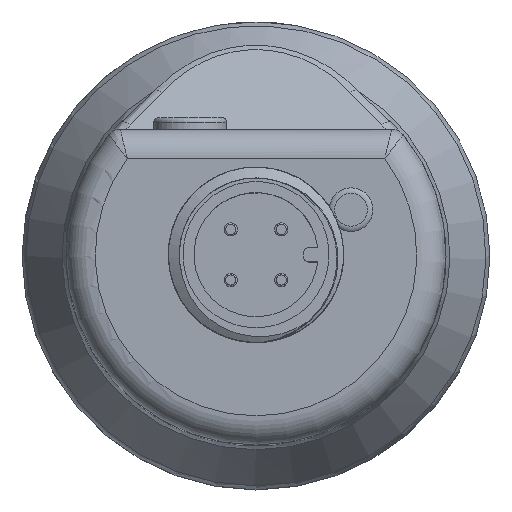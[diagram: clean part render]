
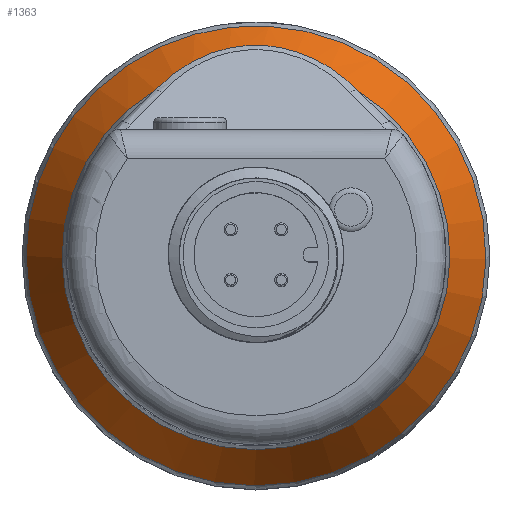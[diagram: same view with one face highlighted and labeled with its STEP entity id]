
A CAD part, top view. The second image highlights one B-rep face of the part: STEP entity #1363.
In plain terms, the highlighted conical face has half-angle 30 degrees and reference radius 13 mm.
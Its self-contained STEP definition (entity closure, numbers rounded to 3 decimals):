
#184=B_SPLINE_CURVE_WITH_KNOTS('',3,(#11257,#11258,#11259,#11260,#11261,
#11262),.UNSPECIFIED.,.F.,.F.,(4,2,4),(0.,0.5,1.),.UNSPECIFIED.);
#209=CONICAL_SURFACE('',#4709,13.,30.);
#1103=FACE_BOUND('',#2026,.T.);
#1104=FACE_BOUND('',#2027,.T.);
#1363=ADVANCED_FACE('',(#1103,#1104),#209,.T.);
#2026=EDGE_LOOP('',(#2880,#2881));
#2027=EDGE_LOOP('',(#2882));
#2880=ORIENTED_EDGE('',*,*,#3780,.T.);
#2881=ORIENTED_EDGE('',*,*,#3992,.T.);
#2882=ORIENTED_EDGE('',*,*,#3993,.T.);
#3359=VERTEX_POINT('',#9169);
#3360=VERTEX_POINT('',#9170);
#3500=VERTEX_POINT('',#11264);
#3780=EDGE_CURVE('',#3359,#3360,#4294,.T.);
#3992=EDGE_CURVE('',#3360,#3359,#184,.T.);
#3993=EDGE_CURVE('',#3500,#3500,#4346,.T.);
#4294=CIRCLE('',#4563,13.268);
#4346=CIRCLE('',#4708,15.732);
#4563=AXIS2_PLACEMENT_3D('',#9168,#5219,#5220);
#4708=AXIS2_PLACEMENT_3D('',#11263,#5608,#5609);
#4709=AXIS2_PLACEMENT_3D('',#11265,#5610,#5611);
#5219=DIRECTION('',(0.,0.,-1.));
#5220=DIRECTION('',(1.,0.,0.));
#5608=DIRECTION('',(0.,0.,1.));
#5609=DIRECTION('',(-1.,0.,0.));
#5610=DIRECTION('',(0.,0.,-1.));
#5611=DIRECTION('',(1.,0.,0.));
#9168=CARTESIAN_POINT('',(0.,0.,14.836));
#9169=CARTESIAN_POINT('',(6.871,11.351,14.836));
#9170=CARTESIAN_POINT('',(-6.871,11.351,14.836));
#11257=CARTESIAN_POINT('',(-6.871,11.351,14.836));
#11258=CARTESIAN_POINT('',(-4.962,13.397,13.515));
#11259=CARTESIAN_POINT('',(-2.317,14.41,12.854));
#11260=CARTESIAN_POINT('',(2.292,14.417,12.849));
#11261=CARTESIAN_POINT('',(4.956,13.404,13.511));
#11262=CARTESIAN_POINT('',(6.871,11.351,14.836));
#11263=CARTESIAN_POINT('',(0.,0.,10.568));
#11264=CARTESIAN_POINT('',(-15.732,0.,10.568));
#11265=CARTESIAN_POINT('',(0.,0.,15.3));
